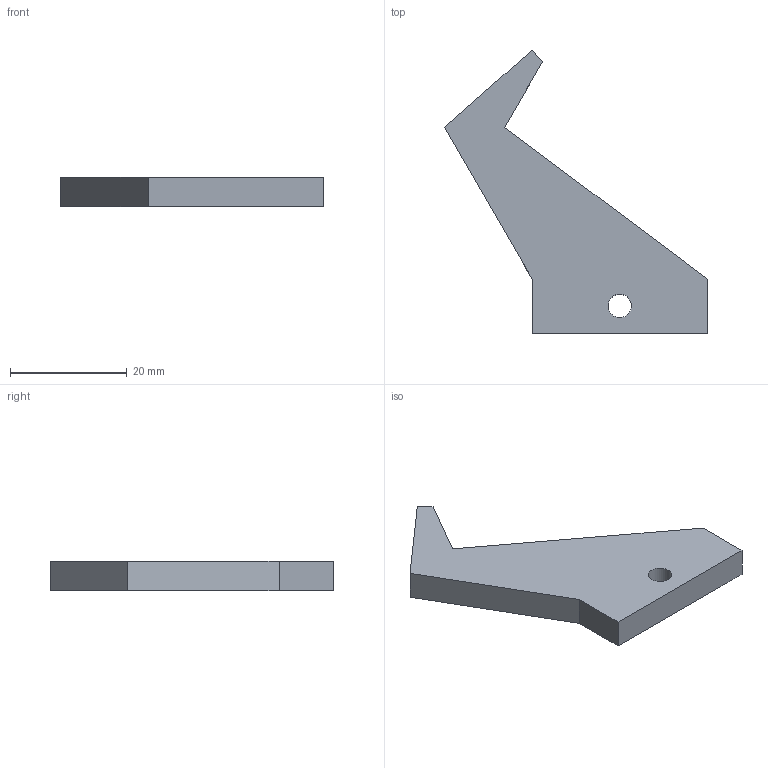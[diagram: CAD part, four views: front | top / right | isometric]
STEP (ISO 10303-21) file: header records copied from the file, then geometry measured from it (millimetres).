
FILE_DESCRIPTION(/* description */ ('STEP AP242','CAx-IF Rec.Pracs.---Representation and Presentation of Product Manufacturing Information (PMI)---4.0---2014-10-13','CAx-IF Rec.Pracs.---3D Tessellated Geometry---0.4---2014-09-14','2;1'),/* implementation_level */ '2;1');
FILE_NAME(/* name */ '65d97b0c26fcd7072ec13f48',/* time_stamp */ '2024-02-24T05:13:48Z',/* author */ (''),/* organization */ (''),/* preprocessor_version */ 'ST-DEVELOPER v19.4',/* originating_system */ ' ',/* authorisation */ ' ');
FILE_SCHEMA (('AP242_MANAGED_MODEL_BASED_3D_ENGINEERING_MIM_LF { 1 0 10303 442 1 1 4 }'));
Length unit declared in the file: metre
Products named in the file (1): Part 1
Bounding box: 45 x 48.61 x 5 mm (x, y, z)
Volume: 4386.9 mm3; surface area: 2606.6 mm2
Topology: 1 solids, 1 shells, 11 faces, 27 edges, 18 vertices
Faces by surface type: plane 10, cylinder 1
Full cylindrical faces by diameter (mm): 4 x1
Entity records: 344 total; most frequent: CARTESIAN_POINT 56, ORIENTED_EDGE 52, DIRECTION 52, EDGE_CURVE 26, LINE 24, VECTOR 24, VERTEX_POINT 18, EDGE_LOOP 14
